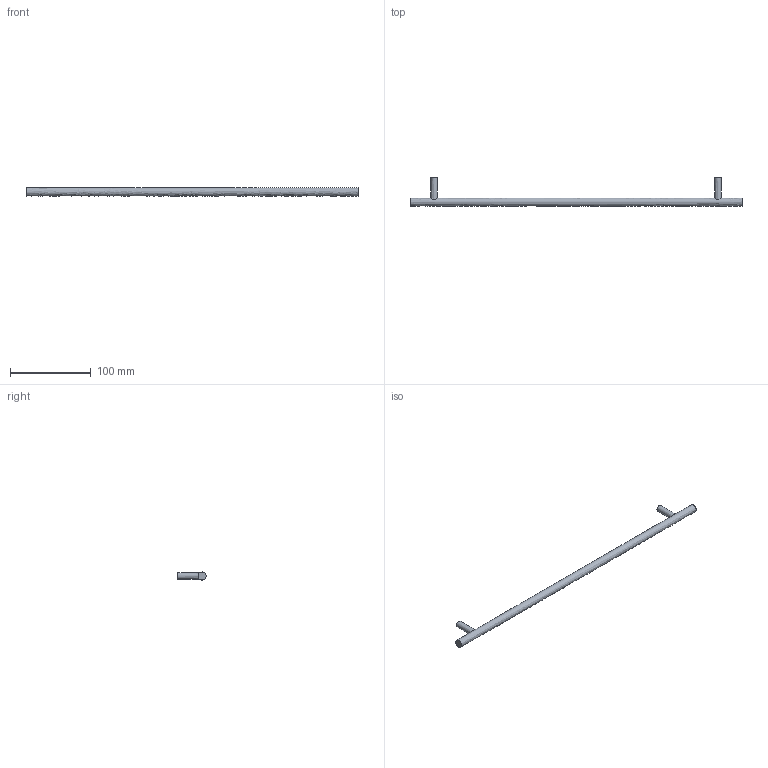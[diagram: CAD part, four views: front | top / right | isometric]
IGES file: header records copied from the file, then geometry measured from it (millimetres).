
Start section: Data from Parasolid IGES Translator 15.0.47, Copyright(c) 2006 Siemens P LM Software. All Rights Reserved.
Global section: file name: 9070996.igs; native system:  By UGS Corp.; preprocessor: XPlus GENERIC/IGES 3.0; author: Noname; organization: Noname; date: 20140122.181246; units: millimetre
Bounding box: 412 x 35 x 10 mm (x, y, z)
Surface area: 14694.8 mm2 (no closed solid volume)
Topology: 0 solids, 0 shells, 11 faces, 30 edges, 22 vertices
Faces by surface type: extrusion 6, revolution 5
